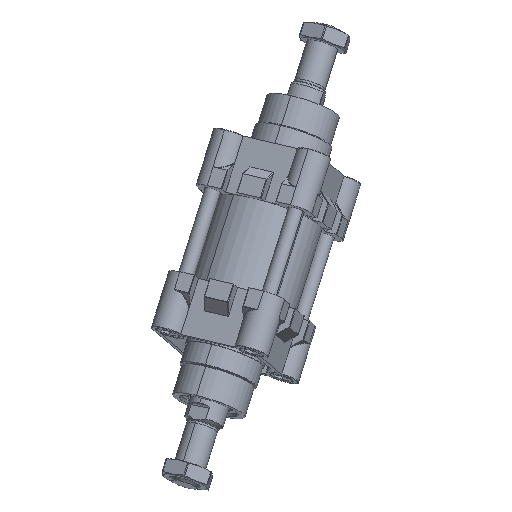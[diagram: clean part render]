
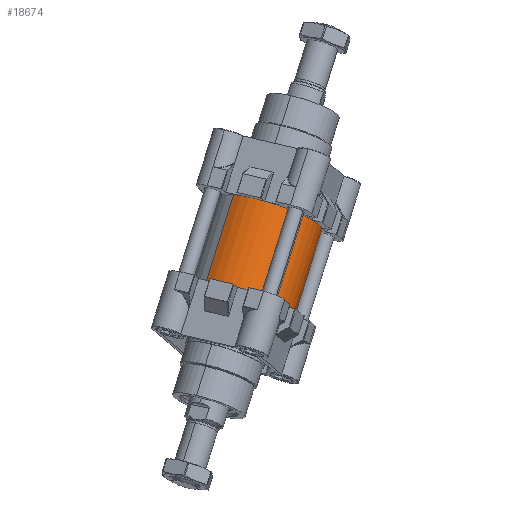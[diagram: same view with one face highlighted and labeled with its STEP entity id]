
A CAD part, front view. The second image highlights one B-rep face of the part: STEP entity #18674.
In plain terms, the highlighted cylindrical face has radius 27.5 mm (diameter 55 mm), a partial arc.
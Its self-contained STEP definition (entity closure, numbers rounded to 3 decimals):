
#850 = DIRECTION ( 'NONE',  ( 1., 0., 0. ) ) ;
#1079 = VERTEX_POINT ( 'NONE', #14060 ) ;
#2248 = EDGE_CURVE ( 'NONE', #1079, #20350, #12423, .T. ) ;
#4187 = DIRECTION ( 'NONE',  ( 0., 0., -1. ) ) ;
#5968 = CYLINDRICAL_SURFACE ( 'NONE', #10943, 27.5 ) ;
#6547 = VECTOR ( 'NONE', #22230, 1000. ) ;
#6789 = CARTESIAN_POINT ( 'NONE',  ( -27.5, 0., 46. ) ) ;
#6927 = VERTEX_POINT ( 'NONE', #21525 ) ;
#8130 = ORIENTED_EDGE ( 'NONE', *, *, #18644, .F. ) ;
#8143 = VERTEX_POINT ( 'NONE', #17498 ) ;
#9641 = DIRECTION ( 'NONE',  ( 0., 0., 1. ) ) ;
#10916 = DIRECTION ( 'NONE',  ( -1., 0., 0. ) ) ;
#10943 = AXIS2_PLACEMENT_3D ( 'NONE', #19294, #13161, #10916 ) ;
#12106 = ORIENTED_EDGE ( 'NONE', *, *, #21907, .T. ) ;
#12423 = LINE ( 'NONE', #6789, #6547 ) ;
#13161 = DIRECTION ( 'NONE',  ( 0., 0., -1. ) ) ;
#13252 = LINE ( 'NONE', #23937, #19811 ) ;
#14025 = DIRECTION ( 'NONE',  ( 0., 0., 1. ) ) ;
#14060 = CARTESIAN_POINT ( 'NONE',  ( -27.5, 0., 46. ) ) ;
#14612 = ORIENTED_EDGE ( 'NONE', *, *, #17068, .F. ) ;
#15677 = AXIS2_PLACEMENT_3D ( 'NONE', #22874, #9641, #25045 ) ;
#15735 = CIRCLE ( 'NONE', #28053, 27.5 ) ;
#17068 = EDGE_CURVE ( 'NONE', #1079, #6927, #15735, .T. ) ;
#17498 = CARTESIAN_POINT ( 'NONE',  ( 27.5, 0., 0. ) ) ;
#17747 = FACE_OUTER_BOUND ( 'NONE', #26157, .T. ) ;
#17765 = ORIENTED_EDGE ( 'NONE', *, *, #2248, .T. ) ;
#18644 = EDGE_CURVE ( 'NONE', #6927, #8143, #13252, .T. ) ;
#18674 = ADVANCED_FACE ( 'NONE', ( #17747 ), #5968, .T. ) ;
#19294 = CARTESIAN_POINT ( 'NONE',  ( 0., 0., 46. ) ) ;
#19811 = VECTOR ( 'NONE', #4187, 1000. ) ;
#20350 = VERTEX_POINT ( 'NONE', #21523 ) ;
#21523 = CARTESIAN_POINT ( 'NONE',  ( -27.5, 0., 0. ) ) ;
#21525 = CARTESIAN_POINT ( 'NONE',  ( 27.5, 0., 46. ) ) ;
#21907 = EDGE_CURVE ( 'NONE', #20350, #8143, #25516, .T. ) ;
#22230 = DIRECTION ( 'NONE',  ( 0., 0., -1. ) ) ;
#22874 = CARTESIAN_POINT ( 'NONE',  ( 0., 0., 0. ) ) ;
#23937 = CARTESIAN_POINT ( 'NONE',  ( 27.5, 0., 46. ) ) ;
#25045 = DIRECTION ( 'NONE',  ( 1., 0., 0. ) ) ;
#25516 = CIRCLE ( 'NONE', #15677, 27.5 ) ;
#26157 = EDGE_LOOP ( 'NONE', ( #8130, #14612, #17765, #12106 ) ) ;
#27166 = CARTESIAN_POINT ( 'NONE',  ( 0., 0., 46. ) ) ;
#28053 = AXIS2_PLACEMENT_3D ( 'NONE', #27166, #14025, #850 ) ;
